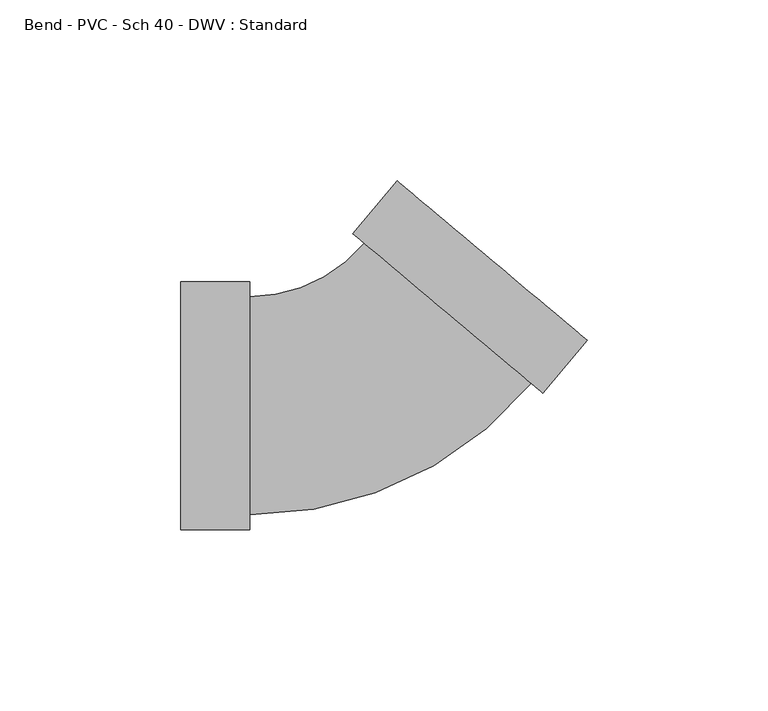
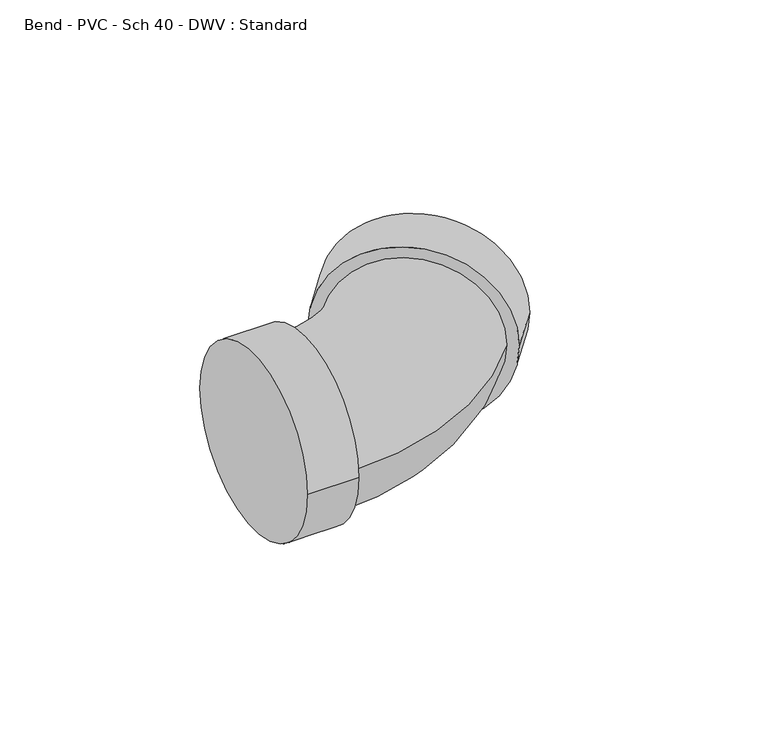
"""IFC4 building model written with IfcOpenShell, lengths in millimetres: pipe fitting geometry, Bend - PVC - Sch 40 - DWV : Standard."""

from ifc_helpers import new_model, si_unit, point, frame, origin, place, context, project, spatial, circle_curve, ellipse_curve, trimmed, source, transform, mapped, element, save
from ifc_brep_helpers import plane_surface, cylinder_surface, revolved_surface, advanced_brep


def bend_pvc_sch_40_dwv_standard_361001dc(model_context):
    return source(origin(), model_context, "Body", "AdvancedBrep", [
        advanced_brep(
        [(-52.4002, -34.3154, 0.0), (-52.4002, 34.3154, 0.0), (-33.3502, -34.3154, 0.0), (-33.3502, 34.3154, 0.0), (-33.3502, -30.1625, 0.0), (-33.3502, 30.1625, 0.0), (-1.6687202, 44.9358167, 0.0), (44.5429109, 6.1596541, 0.0), (47.7242168, 3.4902214, 0.0), (-4.8500261, 47.6052493, 0.0), (59.9693208, 18.0833681, 0.0), (7.3950778, 62.198396, 0.0)],
        [
            (0, 1, circle_curve(frame((-52.4002, 0.0, 0.0), z_axis=(-1.0, 0.0, 0.0), x_axis=(0.0, 1.0, 0.0)), 34.3154)),
            (1, 0, circle_curve(frame((-52.4002, 0.0, 0.0), z_axis=(-1.0, 0.0, 0.0), x_axis=(0.0, 1.0, 0.0)), 34.3154)),
            (2, 3, circle_curve(frame((-33.3502, 0.0, 0.0), z_axis=(1.0, 0.0, 0.0), x_axis=(0.0, 1.0, 0.0)), 34.3154)),
            (3, 2, circle_curve(frame((-33.3502, 0.0, 0.0), z_axis=(1.0, 0.0, 0.0), x_axis=(0.0, 1.0, 0.0)), 34.3154)),
            (4, 5, circle_curve(frame((-33.3502, 0.0, 0.0), z_axis=(-1.0, 0.0, 0.0), x_axis=(0.0, 1.0, 0.0)), 30.1625)),
            (5, 4, circle_curve(frame((-33.3502, 0.0, 0.0), z_axis=(-1.0, 0.0, 0.0), x_axis=(0.0, 1.0, 0.0)), 30.1625)),
            (0, 2),
            (3, 1),
            (6, 5, circle_curve(frame((-33.3502, 71.5197347, 0.0), z_axis=(0.0, 0.0, -1.0), x_axis=(0.0, -1.0, 0.0)), 41.3572347)),
            (4, 7, circle_curve(frame((-33.3502, 71.5197347, 0.0), z_axis=(0.0, 0.0, 1.0), x_axis=(0.0, -1.0, 0.0)), 101.6822347)),
            (7, 6, circle_curve(frame((21.4370953, 25.5477354, 0.0), z_axis=(-0.642787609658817, -0.7660444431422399, 0.0), x_axis=(-0.7660444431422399, 0.642787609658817, 0.0)), 30.1625)),
            (6, 7, circle_curve(frame((21.4370953, 25.5477354, 0.0), z_axis=(-0.642787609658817, -0.7660444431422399, 0.0), x_axis=(-0.7660444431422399, 0.642787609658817, 0.0)), 30.1625)),
            (8, 9, circle_curve(frame((21.4370953, 25.5477354, 0.0), z_axis=(-0.6427876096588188, -0.7660444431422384, 0.0), x_axis=(-0.7660444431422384, 0.6427876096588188, 0.0)), 34.3154)),
            (9, 8, circle_curve(frame((21.4370953, 25.5477354, 0.0), z_axis=(-0.6427876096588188, -0.7660444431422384, 0.0), x_axis=(-0.7660444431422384, 0.6427876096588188, 0.0)), 34.3154)),
            (10, 11, circle_curve(frame((33.6821993, 40.140882, 0.0), z_axis=(0.6427876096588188, 0.7660444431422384, 0.0), x_axis=(-0.7660444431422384, 0.6427876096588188, 0.0)), 34.3154)),
            (11, 10, circle_curve(frame((33.6821993, 40.140882, 0.0), z_axis=(0.6427876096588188, 0.7660444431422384, 0.0), x_axis=(-0.7660444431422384, 0.6427876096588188, 0.0)), 34.3154)),
            (8, 10),
            (11, 9),
        ],
        [
            plane_surface(frame((-52.4002, 0.0, 0.0), z_axis=(-1.0, 0.0, 0.0), x_axis=(0.0, 0.0, 1.0))),
            plane_surface(frame((-33.3502, 0.0, 0.0), z_axis=(1.0, 0.0, 0.0), x_axis=(0.0, 0.0, 1.0))),
            cylinder_surface(frame((-52.4002, 0.0, 0.0), z_axis=(-1.0, 0.0, 0.0), x_axis=(0.0, 1.0, 0.0)), 34.3154),
            revolved_surface(trimmed(ellipse_curve(frame((-33.3502, 0.0, 0.0), z_axis=(-1.0, 0.0, 0.0), x_axis=(0.0, 1.0, 0.0)), 30.1625, 30.1625), [point((-33.3502, -30.1625, 0.0))], [point((-33.3502, 30.1625, 0.0))], True, "CARTESIAN"), (-33.3502, 71.5197347, 0.0), (0.0, 0.0, 1.0)),
            revolved_surface(trimmed(ellipse_curve(frame((-33.3502, 0.0, 0.0), z_axis=(-1.0, 0.0, 0.0), x_axis=(0.0, 1.0, 0.0)), 30.1625, 30.1625), [point((-33.3502, 30.1625, 0.0))], [point((-33.3502, -30.1625, 0.0))], True, "CARTESIAN"), (-33.3502, 71.5197347, 0.0), (0.0, 0.0, 1.0)),
            plane_surface(frame((21.4370953, 25.5477354, 0.0), z_axis=(-0.6427876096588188, -0.7660444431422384, 0.0), x_axis=(0.0, 0.0, 1.0))),
            plane_surface(frame((33.6821993, 40.140882, 0.0), z_axis=(0.6427876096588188, 0.7660444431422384, 0.0), x_axis=(0.0, 0.0, 1.0))),
            cylinder_surface(frame((21.4370953, 25.5477354, 0.0), z_axis=(-0.6427876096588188, -0.7660444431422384, 0.0), x_axis=(-0.7660444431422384, 0.6427876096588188, 0.0)), 34.3154),
        ],
        [
            (0, [[1, 2]]),
            (1, [[3, 4], [5, 6]]),
            (2, [[-1, 7, -4, 8]]),
            (2, [[-2, -8, -3, -7]]),
            (3, [[9, -5, 10, 11]]),
            (4, [[-9, 12, -10, -6]]),
            (5, [[13, 14], [-11, -12]]),
            (6, [[15, 16]]),
            (7, [[-13, 17, -16, 18]]),
            (7, [[-14, -18, -15, -17]]),
        ],
    ),
    ])


if __name__ == "__main__":
    model = new_model("IFC4")
    model_context = context("Model", 3, world=origin())
    ifc_project = project(units=[si_unit("LENGTHUNIT", "METRE", prefix="MILLI")], contexts=[model_context])
    site = spatial("IfcSite", under=ifc_project)
    building = spatial("IfcBuilding", under=site)
    placement = place(None, origin())
    bend_pvc_sch_40_dwv_standard_shape = bend_pvc_sch_40_dwv_standard_361001dc(model_context)
    element("IfcPipeFitting", 1, ObjectType="Bend - PVC - Sch 40 - DWV : Standard", at=placement, inside=building, context=model_context, shape_type="MappedRepresentation", body=[
        mapped(bend_pvc_sch_40_dwv_standard_shape, transform((0.0, 0.0, 0.0), x_axis=(1.0, 0.0, 0.0), y_axis=(0.0, 1.0, 0.0), z_axis=(0.0, 0.0, 1.0))),
    ])
    save(model, "model.ifc")
